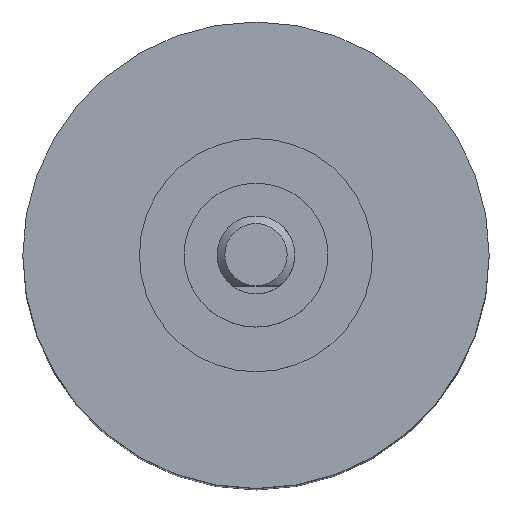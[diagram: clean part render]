
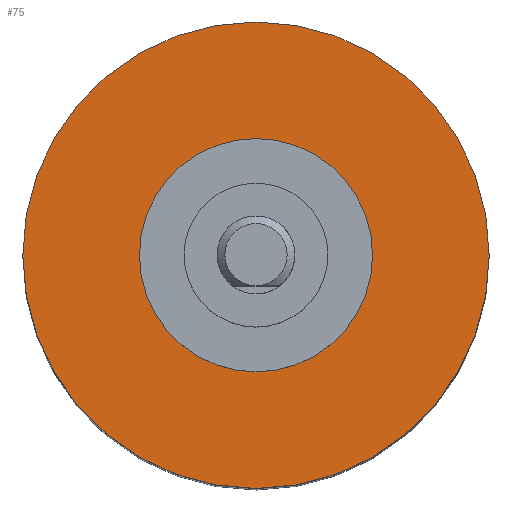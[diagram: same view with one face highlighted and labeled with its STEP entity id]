
A CAD part, top view. The second image highlights one B-rep face of the part: STEP entity #75.
In plain terms, the highlighted planar face has unit normal (0, 0, 1).
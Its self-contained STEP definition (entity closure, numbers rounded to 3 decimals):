
#54=PLANE('',#415);
#75=ADVANCED_FACE('',(#131,#132),#54,.T.);
#131=FACE_BOUND('',#185,.T.);
#132=FACE_BOUND('',#186,.T.);
#185=EDGE_LOOP('',(#244));
#186=EDGE_LOOP('',(#245));
#244=ORIENTED_EDGE('',*,*,#337,.T.);
#245=ORIENTED_EDGE('',*,*,#338,.F.);
#305=VERTEX_POINT('',#616);
#306=VERTEX_POINT('',#619);
#337=EDGE_CURVE('',#305,#305,#372,.T.);
#338=EDGE_CURVE('',#306,#306,#373,.T.);
#372=CIRCLE('',#412,3.);
#373=CIRCLE('',#414,6.);
#412=AXIS2_PLACEMENT_3D('',#615,#496,#497);
#414=AXIS2_PLACEMENT_3D('',#618,#500,#501);
#415=AXIS2_PLACEMENT_3D('',#620,#502,#503);
#496=DIRECTION('',(0.,0.,-1.));
#497=DIRECTION('',(1.,0.,0.));
#500=DIRECTION('',(0.,0.,-1.));
#501=DIRECTION('',(-1.,0.,0.));
#502=DIRECTION('',(0.,0.,1.));
#503=DIRECTION('',(1.,0.,0.));
#615=CARTESIAN_POINT('',(0.,0.,0.));
#616=CARTESIAN_POINT('',(3.,0.,0.));
#618=CARTESIAN_POINT('',(0.,0.,0.));
#619=CARTESIAN_POINT('',(-6.,0.,0.));
#620=CARTESIAN_POINT('',(0.,0.,0.));
